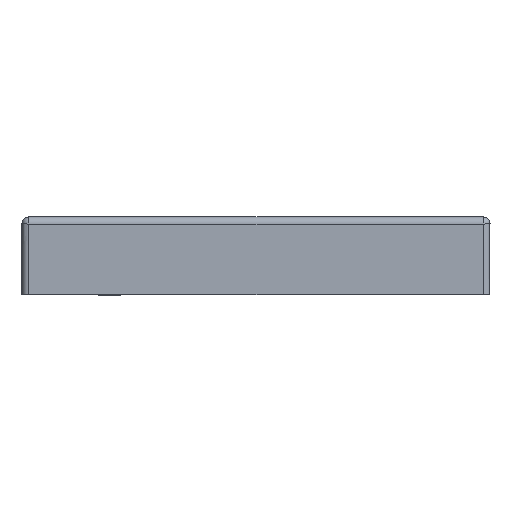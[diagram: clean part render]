
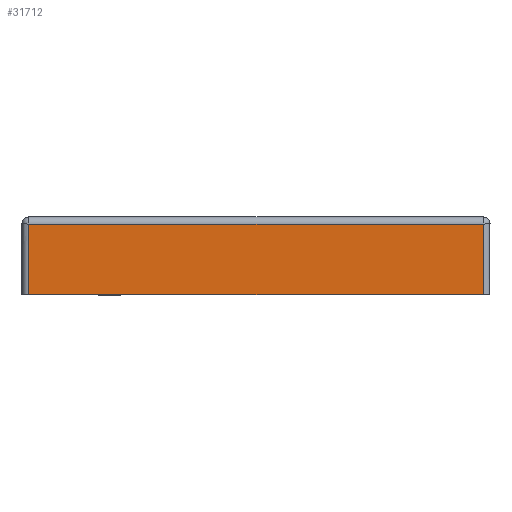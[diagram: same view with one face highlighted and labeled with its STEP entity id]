
A CAD part, front view. The second image highlights one B-rep face of the part: STEP entity #31712.
In plain terms, the highlighted planar face has unit normal (0, -1, -0.018).
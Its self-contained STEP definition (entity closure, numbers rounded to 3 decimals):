
#10936=DIRECTION('',(-1.,0.,0.));
#10937=VECTOR('',#10936,99.);
#10938=CARTESIAN_POINT('',(86.508,-172.436,
-15.474));
#10939=LINE('',#10938,#10937);
#10940=DIRECTION('',(1.,0.,0.));
#10941=VECTOR('',#10940,99.);
#10942=CARTESIAN_POINT('',(-12.492,-172.706,
0.));
#10943=LINE('',#10942,#10941);
#10944=DIRECTION('',(0.,-0.017,1.));
#10945=VECTOR('',#10944,15.476);
#10946=CARTESIAN_POINT('',(-12.492,-172.436,-15.474));
#10947=LINE('',#10946,#10945);
#10955=CARTESIAN_POINT('',(-12.492,-172.436,-15.474));
#12050=CARTESIAN_POINT('',(86.508,-172.436,
-15.474));
#12059=DIRECTION('',(0.,0.017,-1.));
#12060=VECTOR('',#12059,15.476);
#12061=CARTESIAN_POINT('',(86.508,-172.706,
0.));
#12062=LINE('',#12061,#12060);
#14893=VERTEX_POINT('',#12050);
#15470=CARTESIAN_POINT('',(86.508,-172.706,
0.));
#15471=VERTEX_POINT('',#15470);
#15631=VERTEX_POINT('',#10955);
#16453=CARTESIAN_POINT('',(-12.492,-172.706,
0.));
#16454=VERTEX_POINT('',#16453);
#31699=CARTESIAN_POINT('',(37.008,-172.571,
-7.737));
#31700=DIRECTION('',(0.,1.,0.017));
#31701=DIRECTION('',(0.,0.017,-1.));
#31702=AXIS2_PLACEMENT_3D('',#31699,#31700,#31701);
#31703=PLANE('',#31702);
#31704=ORIENTED_EDGE('',*,*,#18114,.T.);
#31706=ORIENTED_EDGE('',*,*,#31705,.T.);
#31707=ORIENTED_EDGE('',*,*,#31689,.T.);
#31709=ORIENTED_EDGE('',*,*,#31708,.T.);
#31710=EDGE_LOOP('',(#31704,#31706,#31707,#31709));
#31711=FACE_OUTER_BOUND('',#31710,.F.);
#31712=ADVANCED_FACE('',(#31711),#31703,.F.);
#18114=EDGE_CURVE('',#14893,#15631,#10939,.T.);
#31689=EDGE_CURVE('',#16454,#15471,#10943,.T.);
#31705=EDGE_CURVE('',#15631,#16454,#10947,.T.);
#31708=EDGE_CURVE('',#15471,#14893,#12062,.T.);
